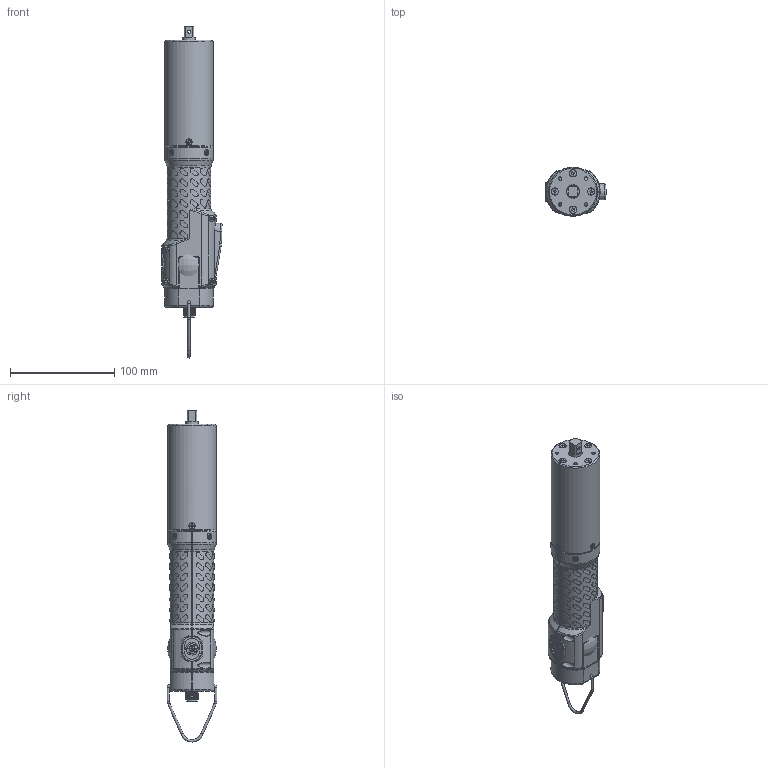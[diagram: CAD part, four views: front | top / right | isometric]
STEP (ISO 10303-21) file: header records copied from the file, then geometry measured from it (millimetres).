
FILE_DESCRIPTION (( 'STEP AP214' ), '1' );
FILE_NAME ('133222 PLUTO20D AVVITATORE START REVERSE PLASTI.STEP', '2026-04-14T07:48:44', ( '' ), ( '' ), 'SwSTEP 2.0', 'SolidWorks 2024', '' );
FILE_SCHEMA (( 'AUTOMOTIVE_DESIGN' ));
Length unit declared in the file: millimetre
Products named in the file (1): 133222   PLUTO20D AVVITATORE START REVERSE PLASTI
Bounding box: 57.72 x 48 x 319.09 mm (x, y, z)
Surface area: 55752.9 mm2 (no closed solid volume)
Topology: 0 solids, 38 shells, 911 faces, 2524 edges, 1648 vertices
Faces by surface type: bspline 328, cylinder 298, plane 188, torus 55, cone 33, sphere 9
Full cylindrical faces by diameter (mm): 1 x7, 2.2 x6, 2.5 x2, 3 x1, 3.3 x4, 5.5 x8, 6 x4, 7 x4, 8.3 x1, 9.4 x1, 9.5 x1, 12 x1, 13 x1, 16 x1, 47 x1
Entity records: 81442 total; most frequent: CARTESIAN_POINT 52021, ORIENTED_EDGE 4237, DIRECTION 3094, EDGE_CURVE 2389, VERTEX_POINT 1605, AXIS2_PLACEMENT_3D 1237, EDGE_LOOP 1090, B_SPLINE_CURVE_WITH_KNOTS 1071
